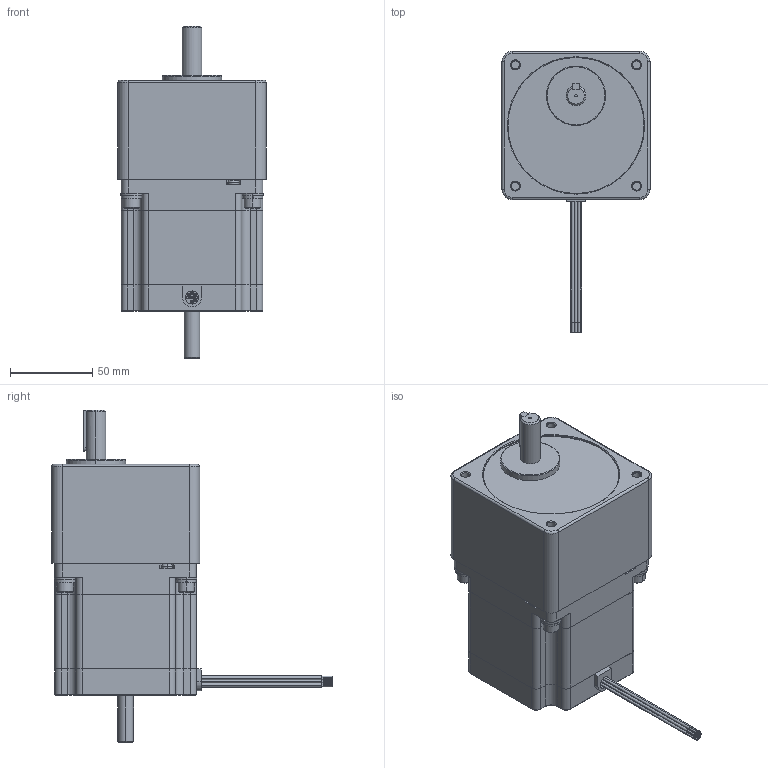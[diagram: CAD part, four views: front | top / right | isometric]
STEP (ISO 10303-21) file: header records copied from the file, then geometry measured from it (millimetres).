
FILE_DESCRIPTION (( 'STEP AP214' ), '1' );
FILE_NAME ('34YSG108D-LW8-R50.STEP', '2010-06-18T16:35:06', ( 'Tim Raines' ), ( 'Anaheim Automation' ), 'SwSTEP 2.0', 'SolidWorks 2010', '' );
FILE_SCHEMA (( 'AUTOMOTIVE_DESIGN' ));
Length unit declared in the file: millimetre
Products named in the file (6): Socket Head Cap Screw_AM_B18.3.1M - 6 x 1.0 x 20 Hex SHCS -- 20NHX; 34YSG108D-LW8-R50; Lock Washer Spring Regular_AI_Regular LW 0.25; 34SG Series_34SG2; 34YSG Motor_34YSG108D-LW8; Flat Washer Narrow_AM_B18.22M - Plain washer, 6 mm, narrow
Assembly tree (14 placements, depth 2):
  34YSG108D-LW8-R50
    Socket Head Cap Screw_AM_B18.3.1M - 6 x 1.0 x 20 Hex SHCS -- 20NHX  x4
    Flat Washer Narrow_AM_B18.22M - Plain washer, 6 mm, narrow  x4
    Lock Washer Spring Regular_AI_Regular LW 0.25  x4
    34SG Series_34SG2
    34YSG Motor_34YSG108D-LW8
Bounding box: 89.92 x 170.43 x 201.45 mm (x, y, z)
Volume: 1013747.2 mm3; surface area: 97905.4 mm2
Topology: 14 solids, 14 shells, 587 faces, 1391 edges, 862 vertices
Faces by surface type: plane 272, cylinder 194, cone 101, torus 20
Entity records: 18773 total; most frequent: CARTESIAN_POINT 2631, DIRECTION 2475, ORIENTED_EDGE 2262, EDGE_CURVE 1131, AXIS2_PLACEMENT_3D 919, VERTEX_POINT 715, VECTOR 637, LINE 637
